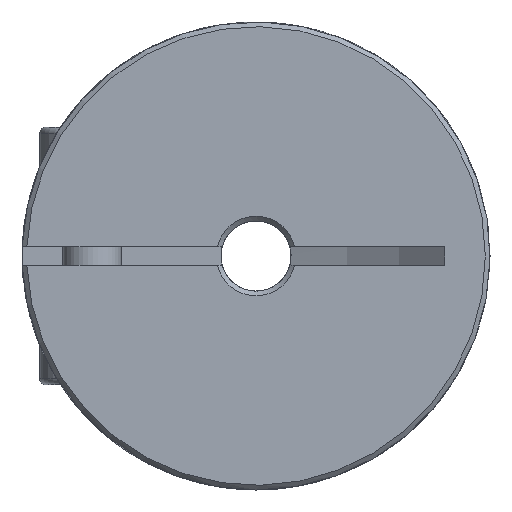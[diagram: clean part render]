
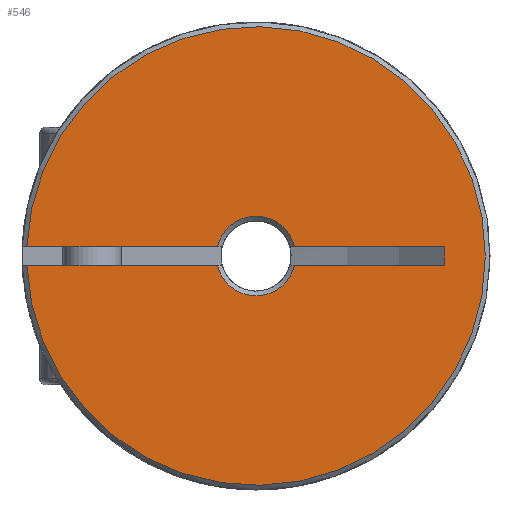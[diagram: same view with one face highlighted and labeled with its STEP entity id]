
A CAD part, left-side view. The second image highlights one B-rep face of the part: STEP entity #546.
In plain terms, the highlighted planar face has unit normal (-1, 0, 0).
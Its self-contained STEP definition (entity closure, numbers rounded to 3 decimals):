
#546 = ADVANCED_FACE( 'NONE', ( #1169 ), #1170, .F. );
#1169 = FACE_OUTER_BOUND( '', #1882, .T. );
#1170 = PLANE( '', #1883 );
#1882 = EDGE_LOOP( '', ( #3058, #3059, #3060, #3061, #3062, #3063, #3064, #3065 ) );
#1883 = AXIS2_PLACEMENT_3D( '', #3066, #3067, #3068 );
#3058 = ORIENTED_EDGE( '', *, *, #4015, .T. );
#3059 = ORIENTED_EDGE( '', *, *, #4016, .T. );
#3060 = ORIENTED_EDGE( '', *, *, #4017, .T. );
#3061 = ORIENTED_EDGE( '', *, *, #3979, .T. );
#3062 = ORIENTED_EDGE( '', *, *, #3711, .F. );
#3063 = ORIENTED_EDGE( '', *, *, #4018, .T. );
#3064 = ORIENTED_EDGE( '', *, *, #3731, .F. );
#3065 = ORIENTED_EDGE( '', *, *, #4019, .T. );
#3066 = CARTESIAN_POINT( '', ( 0., 1.5, 0. ) );
#3067 = DIRECTION( '', ( 1., 0., 0. ) );
#3068 = DIRECTION( '', ( 0., 1., 0. ) );
#3711 = EDGE_CURVE( 'NONE', #4281, #4283, #4284, .T. );
#3731 = EDGE_CURVE( 'NONE', #4314, #4315, #4316, .T. );
#3979 = EDGE_CURVE( 'NONE', #4697, #4283, #4698, .T. );
#4015 = EDGE_CURVE( 'NONE', #4742, #4743, #4744, .T. );
#4016 = EDGE_CURVE( 'NONE', #4743, #4745, #4746, .T. );
#4017 = EDGE_CURVE( 'NONE', #4745, #4697, #4747, .T. );
#4018 = EDGE_CURVE( 'NONE', #4281, #4315, #4748, .T. );
#4019 = EDGE_CURVE( 'NONE', #4314, #4742, #4749, .T. );
#4281 = VERTEX_POINT( 'NONE', #5069 );
#4283 = VERTEX_POINT( 'NONE', #5071 );
#4284 = LINE( '', #5072, #5073 );
#4314 = VERTEX_POINT( 'NONE', #5111 );
#4315 = VERTEX_POINT( 'NONE', #5112 );
#4316 = LINE( '', #5113, #5114 );
#4697 = VERTEX_POINT( 'NONE', #5911 );
#4698 = CIRCLE( '', #5912, 9.8 );
#4742 = VERTEX_POINT( 'NONE', #5968 );
#4743 = VERTEX_POINT( 'NONE', #5969 );
#4744 = LINE( '', #5970, #5971 );
#4745 = VERTEX_POINT( 'NONE', #5972 );
#4746 = CIRCLE( '', #5973, 1.7 );
#4747 = LINE( '', #5974, #5975 );
#4748 = CIRCLE( '', #5976, 1.7 );
#4749 = LINE( '', #5977, #5978 );
#5069 = CARTESIAN_POINT( '', ( 0., -1.652, -0.4 ) );
#5071 = CARTESIAN_POINT( '', ( 0., -9.792, -0.4 ) );
#5072 = CARTESIAN_POINT( '', ( 0., 1.5, -0.4 ) );
#5073 = VECTOR( '', #6366, 1000. );
#5111 = CARTESIAN_POINT( '', ( 0., 8.073, -0.4 ) );
#5112 = CARTESIAN_POINT( '', ( 0., 1.652, -0.4 ) );
#5113 = CARTESIAN_POINT( '', ( 0., 1.5, -0.4 ) );
#5114 = VECTOR( '', #6397, 1000. );
#5911 = CARTESIAN_POINT( '', ( 0., -9.792, 0.4 ) );
#5912 = AXIS2_PLACEMENT_3D( '', #6786, #6787, #6788 );
#5968 = CARTESIAN_POINT( '', ( 0., 8.073, 0.4 ) );
#5969 = CARTESIAN_POINT( '', ( 0., 1.652, 0.4 ) );
#5970 = CARTESIAN_POINT( '', ( 0., 1.5, 0.4 ) );
#5971 = VECTOR( '', #6828, 1000. );
#5972 = CARTESIAN_POINT( '', ( 0., -1.652, 0.4 ) );
#5973 = AXIS2_PLACEMENT_3D( '', #6829, #6830, #6831 );
#5974 = CARTESIAN_POINT( '', ( 0., 1.5, 0.4 ) );
#5975 = VECTOR( '', #6832, 1000. );
#5976 = AXIS2_PLACEMENT_3D( '', #6833, #6834, #6835 );
#5977 = CARTESIAN_POINT( '', ( 0., 8.073, -0.4 ) );
#5978 = VECTOR( '', #6836, 1000. );
#6366 = DIRECTION( '', ( 0., -1., 0. ) );
#6397 = DIRECTION( '', ( 0., -1., 0. ) );
#6786 = CARTESIAN_POINT( '', ( 0., 0., 0. ) );
#6787 = DIRECTION( '', ( -1., 0., 0. ) );
#6788 = DIRECTION( '', ( 0., 0., -1. ) );
#6828 = DIRECTION( '', ( 0., -1., 0. ) );
#6829 = CARTESIAN_POINT( '', ( 0., 0., 0. ) );
#6830 = DIRECTION( '', ( 1., 0., 0. ) );
#6831 = DIRECTION( '', ( 0., 0., -1. ) );
#6832 = DIRECTION( '', ( 0., -1., 0. ) );
#6833 = CARTESIAN_POINT( '', ( 0., 0., 0. ) );
#6834 = DIRECTION( '', ( 1., 0., 0. ) );
#6835 = DIRECTION( '', ( 0., 0., -1. ) );
#6836 = DIRECTION( '', ( 0., 0., 1. ) );
